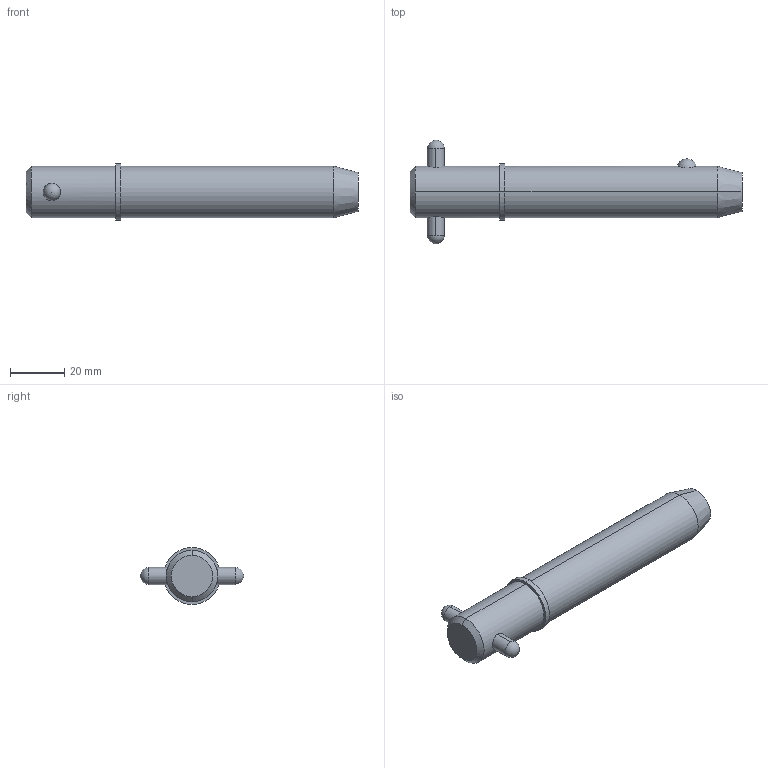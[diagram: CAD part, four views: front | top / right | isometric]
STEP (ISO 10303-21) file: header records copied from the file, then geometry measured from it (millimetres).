
FILE_DESCRIPTION (( 'STEP AP203' ), '1' );
FILE_NAME ('33018.W7525.step', '2024-11-19T17:20:17', ( '' ), ( '' ), 'SwSTEP 2.0', 'SolidWorks 2019', '' );
FILE_SCHEMA (( 'CONFIG_CONTROL_DESIGN' ));
Length unit declared in the file: millimetre
Products named in the file (3): Part1_33018.W7525; Part2_33018.W7525; 33018.W7525
Assembly tree (2 placements, depth 2):
  33018.W7525
    Part1_33018.W7525
    Part2_33018.W7525
Bounding box: 122.23 x 38.1 x 20.95 mm (x, y, z)
Volume: 34884.6 mm3; surface area: 8863.6 mm2
Topology: 2 solids, 2 shells, 22 faces, 47 edges, 30 vertices
Faces by surface type: cylinder 10, sphere 4, cone 4, plane 4
Entity records: 1041 total; most frequent: CARTESIAN_POINT 284, DIRECTION 110, ORIENTED_EDGE 82, AXIS2_PLACEMENT_3D 48, EDGE_CURVE 41, EDGE_LOOP 27, PERSON_AND_ORGANIZATION 26, VERTEX_POINT 26
